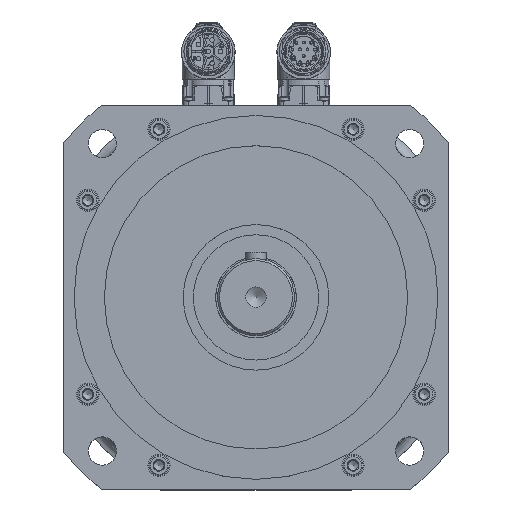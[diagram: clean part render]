
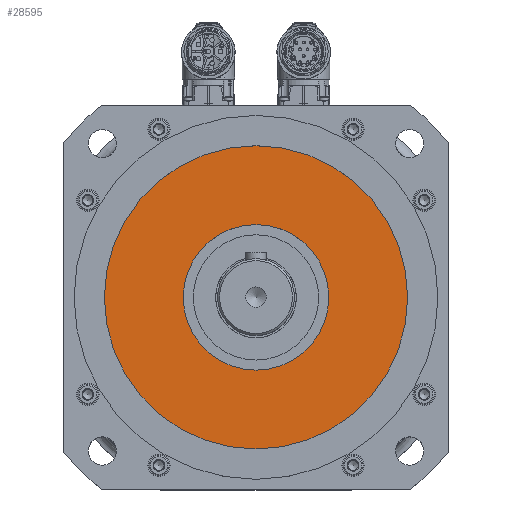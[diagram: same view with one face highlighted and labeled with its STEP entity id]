
A CAD part, top view. The second image highlights one B-rep face of the part: STEP entity #28595.
In plain terms, the highlighted planar face has unit normal (0, 0, 1).
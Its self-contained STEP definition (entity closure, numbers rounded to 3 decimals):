
#6870=FACE_BOUND('',#9289,.T.);
#6871=FACE_BOUND('',#9290,.T.);
#9289=EDGE_LOOP('',(#19947));
#9290=EDGE_LOOP('',(#19948));
#11656=CIRCLE('',#30454,36.);
#11657=CIRCLE('',#30457,75.);
#13026=VERTEX_POINT('',#41280);
#13027=VERTEX_POINT('',#41284);
#15911=EDGE_CURVE('',#13026,#13026,#11656,.T.);
#15912=EDGE_CURVE('',#13027,#13027,#11657,.T.);
#19947=ORIENTED_EDGE('',*,*,#15911,.T.);
#19948=ORIENTED_EDGE('',*,*,#15912,.F.);
#27922=PLANE('',#30459);
#28595=ADVANCED_FACE('',(#6870,#6871),#27922,.F.);
#30454=AXIS2_PLACEMENT_3D('',#41281,#33632,#33633);
#30457=AXIS2_PLACEMENT_3D('',#41285,#33638,#33639);
#30459=AXIS2_PLACEMENT_3D('',#41288,#33642,#33643);
#33632=DIRECTION('center_axis',(0.,0.,-1.));
#33633=DIRECTION('ref_axis',(-1.,0.,0.));
#33638=DIRECTION('center_axis',(0.,0.,-1.));
#33639=DIRECTION('ref_axis',(-1.,0.,0.));
#33642=DIRECTION('center_axis',(0.,0.,-1.));
#33643=DIRECTION('ref_axis',(-1.,0.,0.));
#41280=CARTESIAN_POINT('',(36.,0.,15.));
#41281=CARTESIAN_POINT('Origin',(0.,0.,15.));
#41284=CARTESIAN_POINT('',(75.,0.,15.));
#41285=CARTESIAN_POINT('Origin',(0.,0.,15.));
#41288=CARTESIAN_POINT('Origin',(0.,0.,15.));
